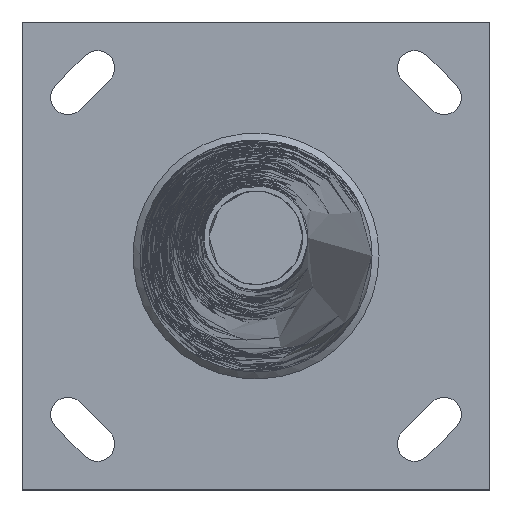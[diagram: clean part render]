
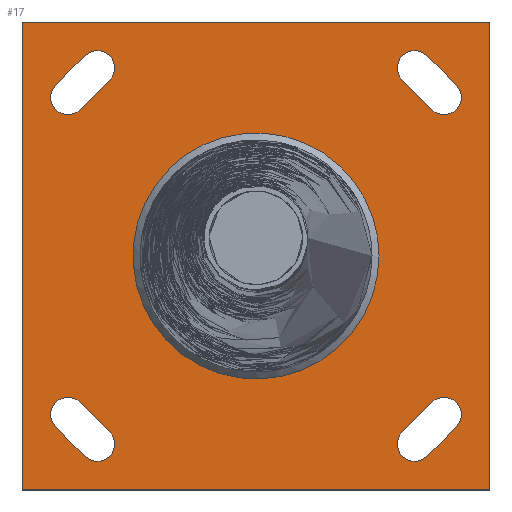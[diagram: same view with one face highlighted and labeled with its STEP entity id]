
A CAD part, top view. The second image highlights one B-rep face of the part: STEP entity #17.
In plain terms, the highlighted planar face has unit normal (0, 0, 1).
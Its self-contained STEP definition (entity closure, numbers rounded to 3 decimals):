
#17 = ADVANCED_FACE('',(#18,#75,#109,#145,#181,#217),#253,.T.);
#18 = FACE_BOUND('',#19,.T.);
#19 = EDGE_LOOP('',(#20));
#20 = ORIENTED_EDGE('',*,*,#21,.T.);
#21 = EDGE_CURVE('',#22,#22,#24,.T.);
#22 = VERTEX_POINT('',#23);
#23 = CARTESIAN_POINT('',(70.969,0.,5.));
#24 = B_SPLINE_CURVE_WITH_KNOTS('',7,(#25,#26,#27,#28,#29,#30,#31,#32,
    #33,#34,#35,#36,#37,#38,#39,#40,#41,#42,#43,#44,#45,#46,#47,#48,#49,
    #50,#51,#52,#53,#54,#55,#56,#57,#58,#59,#60,#61,#62,#63,#64,#65,#66,
    #67,#68,#69,#70,#71,#72,#73,#74),.UNSPECIFIED.,.T.,.F.,(8,6,6,6,6,6,
    6,6,8),(0.,52.597,105.195,
    157.792,210.39,262.987,315.585,
    368.182,420.78),.UNSPECIFIED.);
#25 = CARTESIAN_POINT('',(70.969,0.,5.));
#26 = CARTESIAN_POINT('',(70.969,-7.961,5.));
#27 = CARTESIAN_POINT('',(69.927,-15.928,5.));
#28 = CARTESIAN_POINT('',(67.841,-23.726,5.));
#29 = CARTESIAN_POINT('',(64.748,-31.194,5.));
#30 = CARTESIAN_POINT('',(60.708,-38.183,5.));
#31 = CARTESIAN_POINT('',(55.814,-44.552,5.));
#32 = CARTESIAN_POINT('',(44.552,-55.814,5.));
#33 = CARTESIAN_POINT('',(38.183,-60.707,5.));
#34 = CARTESIAN_POINT('',(31.195,-64.746,5.));
#35 = CARTESIAN_POINT('',(23.726,-67.842,5.));
#36 = CARTESIAN_POINT('',(15.927,-69.927,5.));
#37 = CARTESIAN_POINT('',(7.964,-70.97,5.));
#38 = CARTESIAN_POINT('',(-7.964,-70.969,5.));
#39 = CARTESIAN_POINT('',(-15.927,-69.926,5.));
#40 = CARTESIAN_POINT('',(-23.724,-67.841,5.));
#41 = CARTESIAN_POINT('',(-31.195,-64.748,5.));
#42 = CARTESIAN_POINT('',(-38.183,-60.708,5.));
#43 = CARTESIAN_POINT('',(-44.552,-55.814,5.));
#44 = CARTESIAN_POINT('',(-55.814,-44.552,5.));
#45 = CARTESIAN_POINT('',(-60.707,-38.183,5.));
#46 = CARTESIAN_POINT('',(-64.746,-31.195,5.));
#47 = CARTESIAN_POINT('',(-67.842,-23.726,5.));
#48 = CARTESIAN_POINT('',(-69.927,-15.927,5.));
#49 = CARTESIAN_POINT('',(-70.97,-7.964,5.));
#50 = CARTESIAN_POINT('',(-70.969,7.964,5.));
#51 = CARTESIAN_POINT('',(-69.926,15.927,5.));
#52 = CARTESIAN_POINT('',(-67.841,23.724,5.));
#53 = CARTESIAN_POINT('',(-64.748,31.195,5.));
#54 = CARTESIAN_POINT('',(-60.708,38.183,5.));
#55 = CARTESIAN_POINT('',(-55.814,44.552,5.));
#56 = CARTESIAN_POINT('',(-44.552,55.814,5.));
#57 = CARTESIAN_POINT('',(-38.183,60.707,5.));
#58 = CARTESIAN_POINT('',(-31.195,64.746,5.));
#59 = CARTESIAN_POINT('',(-23.726,67.842,5.));
#60 = CARTESIAN_POINT('',(-15.927,69.927,5.));
#61 = CARTESIAN_POINT('',(-7.964,70.97,5.));
#62 = CARTESIAN_POINT('',(7.964,70.969,5.));
#63 = CARTESIAN_POINT('',(15.927,69.926,5.));
#64 = CARTESIAN_POINT('',(23.724,67.841,5.));
#65 = CARTESIAN_POINT('',(31.195,64.748,5.));
#66 = CARTESIAN_POINT('',(38.183,60.708,5.));
#67 = CARTESIAN_POINT('',(44.552,55.814,5.));
#68 = CARTESIAN_POINT('',(55.814,44.552,5.));
#69 = CARTESIAN_POINT('',(60.707,38.183,5.));
#70 = CARTESIAN_POINT('',(64.746,31.195,5.));
#71 = CARTESIAN_POINT('',(67.841,23.726,5.));
#72 = CARTESIAN_POINT('',(69.927,15.928,5.));
#73 = CARTESIAN_POINT('',(70.969,7.961,5.));
#74 = CARTESIAN_POINT('',(70.969,0.,5.));
#75 = FACE_BOUND('',#76,.T.);
#76 = EDGE_LOOP('',(#77,#87,#95,#103));
#77 = ORIENTED_EDGE('',*,*,#78,.T.);
#78 = EDGE_CURVE('',#79,#81,#83,.T.);
#79 = VERTEX_POINT('',#80);
#80 = CARTESIAN_POINT('',(-135.,135.,5.));
#81 = VERTEX_POINT('',#82);
#82 = CARTESIAN_POINT('',(-135.,-135.,5.));
#83 = LINE('',#84,#85);
#84 = CARTESIAN_POINT('',(-135.,135.,5.));
#85 = VECTOR('',#86,1.);
#86 = DIRECTION('',(0.,-1.,0.));
#87 = ORIENTED_EDGE('',*,*,#88,.T.);
#88 = EDGE_CURVE('',#81,#89,#91,.T.);
#89 = VERTEX_POINT('',#90);
#90 = CARTESIAN_POINT('',(135.,-135.,5.));
#91 = LINE('',#92,#93);
#92 = CARTESIAN_POINT('',(-135.,-135.,5.));
#93 = VECTOR('',#94,1.);
#94 = DIRECTION('',(1.,0.,0.));
#95 = ORIENTED_EDGE('',*,*,#96,.T.);
#96 = EDGE_CURVE('',#89,#97,#99,.T.);
#97 = VERTEX_POINT('',#98);
#98 = CARTESIAN_POINT('',(135.,135.,5.));
#99 = LINE('',#100,#101);
#100 = CARTESIAN_POINT('',(135.,-135.,5.));
#101 = VECTOR('',#102,1.);
#102 = DIRECTION('',(0.,1.,0.));
#103 = ORIENTED_EDGE('',*,*,#104,.T.);
#104 = EDGE_CURVE('',#97,#79,#105,.T.);
#105 = LINE('',#106,#107);
#106 = CARTESIAN_POINT('',(135.,135.,5.));
#107 = VECTOR('',#108,1.);
#108 = DIRECTION('',(-1.,0.,0.));
#109 = FACE_BOUND('',#110,.T.);
#110 = EDGE_LOOP('',(#111,#122,#130,#139));
#111 = ORIENTED_EDGE('',*,*,#112,.F.);
#112 = EDGE_CURVE('',#113,#115,#117,.T.);
#113 = VERTEX_POINT('',#114);
#114 = CARTESIAN_POINT('',(-101.414,-84.444,5.));
#115 = VERTEX_POINT('',#116);
#116 = CARTESIAN_POINT('',(-115.556,-98.586,5.));
#117 = CIRCLE('',#118,10.);
#118 = AXIS2_PLACEMENT_3D('',#119,#120,#121);
#119 = CARTESIAN_POINT('',(-108.485,-91.515,5.));
#120 = DIRECTION('',(0.,-0.,1.));
#121 = DIRECTION('',(0.,1.,0.));
#122 = ORIENTED_EDGE('',*,*,#123,.T.);
#123 = EDGE_CURVE('',#113,#124,#126,.T.);
#124 = VERTEX_POINT('',#125);
#125 = CARTESIAN_POINT('',(-84.444,-101.414,5.));
#126 = LINE('',#127,#128);
#127 = CARTESIAN_POINT('',(-101.414,-84.444,5.));
#128 = VECTOR('',#129,1.);
#129 = DIRECTION('',(0.707,-0.707,0.));
#130 = ORIENTED_EDGE('',*,*,#131,.F.);
#131 = EDGE_CURVE('',#132,#124,#134,.T.);
#132 = VERTEX_POINT('',#133);
#133 = CARTESIAN_POINT('',(-98.586,-115.556,5.));
#134 = CIRCLE('',#135,10.);
#135 = AXIS2_PLACEMENT_3D('',#136,#137,#138);
#136 = CARTESIAN_POINT('',(-91.515,-108.485,5.));
#137 = DIRECTION('',(0.,-0.,1.));
#138 = DIRECTION('',(0.,1.,0.));
#139 = ORIENTED_EDGE('',*,*,#140,.F.);
#140 = EDGE_CURVE('',#115,#132,#141,.T.);
#141 = LINE('',#142,#143);
#142 = CARTESIAN_POINT('',(-115.556,-98.586,5.));
#143 = VECTOR('',#144,1.);
#144 = DIRECTION('',(0.707,-0.707,0.));
#145 = FACE_BOUND('',#146,.T.);
#146 = EDGE_LOOP('',(#147,#158,#166,#175));
#147 = ORIENTED_EDGE('',*,*,#148,.F.);
#148 = EDGE_CURVE('',#149,#151,#153,.T.);
#149 = VERTEX_POINT('',#150);
#150 = CARTESIAN_POINT('',(84.444,-101.414,5.));
#151 = VERTEX_POINT('',#152);
#152 = CARTESIAN_POINT('',(98.586,-115.556,5.));
#153 = CIRCLE('',#154,10.);
#154 = AXIS2_PLACEMENT_3D('',#155,#156,#157);
#155 = CARTESIAN_POINT('',(91.515,-108.485,5.));
#156 = DIRECTION('',(0.,0.,1.));
#157 = DIRECTION('',(-1.,0.,0.));
#158 = ORIENTED_EDGE('',*,*,#159,.T.);
#159 = EDGE_CURVE('',#149,#160,#162,.T.);
#160 = VERTEX_POINT('',#161);
#161 = CARTESIAN_POINT('',(101.414,-84.444,5.));
#162 = LINE('',#163,#164);
#163 = CARTESIAN_POINT('',(84.444,-101.414,5.));
#164 = VECTOR('',#165,1.);
#165 = DIRECTION('',(0.707,0.707,0.));
#166 = ORIENTED_EDGE('',*,*,#167,.F.);
#167 = EDGE_CURVE('',#168,#160,#170,.T.);
#168 = VERTEX_POINT('',#169);
#169 = CARTESIAN_POINT('',(115.556,-98.586,5.));
#170 = CIRCLE('',#171,10.);
#171 = AXIS2_PLACEMENT_3D('',#172,#173,#174);
#172 = CARTESIAN_POINT('',(108.485,-91.515,5.));
#173 = DIRECTION('',(0.,0.,1.));
#174 = DIRECTION('',(-1.,0.,0.));
#175 = ORIENTED_EDGE('',*,*,#176,.F.);
#176 = EDGE_CURVE('',#151,#168,#177,.T.);
#177 = LINE('',#178,#179);
#178 = CARTESIAN_POINT('',(98.586,-115.556,5.));
#179 = VECTOR('',#180,1.);
#180 = DIRECTION('',(0.707,0.707,0.));
#181 = FACE_BOUND('',#182,.T.);
#182 = EDGE_LOOP('',(#183,#194,#202,#211));
#183 = ORIENTED_EDGE('',*,*,#184,.F.);
#184 = EDGE_CURVE('',#185,#187,#189,.T.);
#185 = VERTEX_POINT('',#186);
#186 = CARTESIAN_POINT('',(-84.444,101.414,5.));
#187 = VERTEX_POINT('',#188);
#188 = CARTESIAN_POINT('',(-98.586,115.556,5.));
#189 = CIRCLE('',#190,10.);
#190 = AXIS2_PLACEMENT_3D('',#191,#192,#193);
#191 = CARTESIAN_POINT('',(-91.515,108.485,5.));
#192 = DIRECTION('',(0.,0.,1.));
#193 = DIRECTION('',(1.,0.,0.));
#194 = ORIENTED_EDGE('',*,*,#195,.T.);
#195 = EDGE_CURVE('',#185,#196,#198,.T.);
#196 = VERTEX_POINT('',#197);
#197 = CARTESIAN_POINT('',(-101.414,84.444,5.));
#198 = LINE('',#199,#200);
#199 = CARTESIAN_POINT('',(-84.444,101.414,5.));
#200 = VECTOR('',#201,1.);
#201 = DIRECTION('',(-0.707,-0.707,0.));
#202 = ORIENTED_EDGE('',*,*,#203,.F.);
#203 = EDGE_CURVE('',#204,#196,#206,.T.);
#204 = VERTEX_POINT('',#205);
#205 = CARTESIAN_POINT('',(-115.556,98.586,5.));
#206 = CIRCLE('',#207,10.);
#207 = AXIS2_PLACEMENT_3D('',#208,#209,#210);
#208 = CARTESIAN_POINT('',(-108.485,91.515,5.));
#209 = DIRECTION('',(0.,0.,1.));
#210 = DIRECTION('',(1.,0.,0.));
#211 = ORIENTED_EDGE('',*,*,#212,.F.);
#212 = EDGE_CURVE('',#187,#204,#213,.T.);
#213 = LINE('',#214,#215);
#214 = CARTESIAN_POINT('',(-98.586,115.556,5.));
#215 = VECTOR('',#216,1.);
#216 = DIRECTION('',(-0.707,-0.707,0.));
#217 = FACE_BOUND('',#218,.T.);
#218 = EDGE_LOOP('',(#219,#230,#238,#247));
#219 = ORIENTED_EDGE('',*,*,#220,.F.);
#220 = EDGE_CURVE('',#221,#223,#225,.T.);
#221 = VERTEX_POINT('',#222);
#222 = CARTESIAN_POINT('',(101.414,84.444,5.));
#223 = VERTEX_POINT('',#224);
#224 = CARTESIAN_POINT('',(115.556,98.586,5.));
#225 = CIRCLE('',#226,10.);
#226 = AXIS2_PLACEMENT_3D('',#227,#228,#229);
#227 = CARTESIAN_POINT('',(108.485,91.515,5.));
#228 = DIRECTION('',(0.,0.,1.));
#229 = DIRECTION('',(0.,-1.,0.));
#230 = ORIENTED_EDGE('',*,*,#231,.T.);
#231 = EDGE_CURVE('',#221,#232,#234,.T.);
#232 = VERTEX_POINT('',#233);
#233 = CARTESIAN_POINT('',(84.444,101.414,5.));
#234 = LINE('',#235,#236);
#235 = CARTESIAN_POINT('',(101.414,84.444,5.));
#236 = VECTOR('',#237,1.);
#237 = DIRECTION('',(-0.707,0.707,0.));
#238 = ORIENTED_EDGE('',*,*,#239,.F.);
#239 = EDGE_CURVE('',#240,#232,#242,.T.);
#240 = VERTEX_POINT('',#241);
#241 = CARTESIAN_POINT('',(98.586,115.556,5.));
#242 = CIRCLE('',#243,10.);
#243 = AXIS2_PLACEMENT_3D('',#244,#245,#246);
#244 = CARTESIAN_POINT('',(91.515,108.485,5.));
#245 = DIRECTION('',(0.,0.,1.));
#246 = DIRECTION('',(0.,-1.,0.));
#247 = ORIENTED_EDGE('',*,*,#248,.F.);
#248 = EDGE_CURVE('',#223,#240,#249,.T.);
#249 = LINE('',#250,#251);
#250 = CARTESIAN_POINT('',(115.556,98.586,5.));
#251 = VECTOR('',#252,1.);
#252 = DIRECTION('',(-0.707,0.707,0.));
#253 = PLANE('',#254);
#254 = AXIS2_PLACEMENT_3D('',#255,#256,#257);
#255 = CARTESIAN_POINT('',(0.,0.,5.));
#256 = DIRECTION('',(0.,0.,1.));
#257 = DIRECTION('',(1.,0.,0.));
